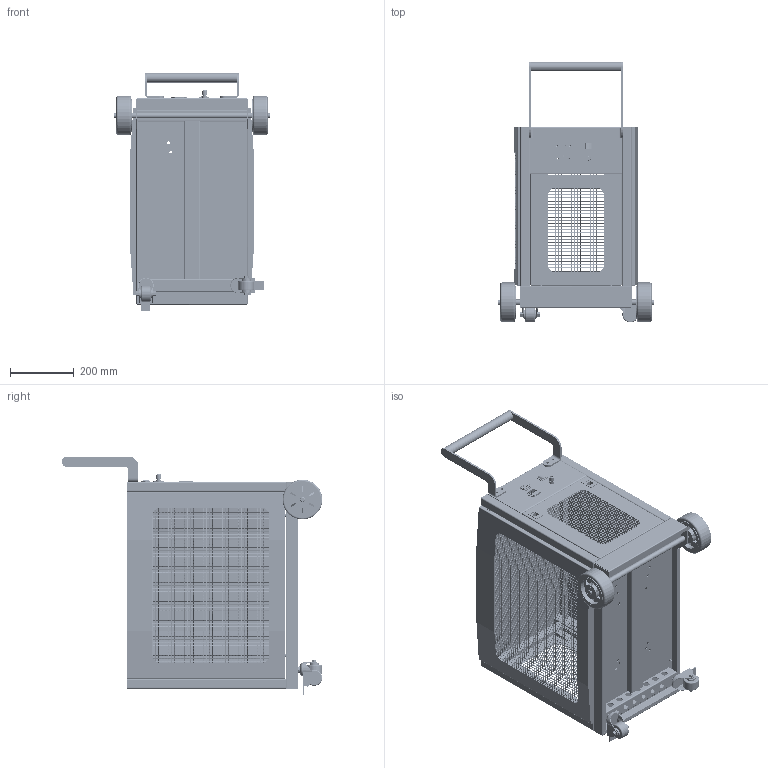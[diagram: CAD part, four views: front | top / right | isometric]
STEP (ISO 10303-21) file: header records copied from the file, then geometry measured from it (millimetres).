
FILE_DESCRIPTION (( 'STEP AP203' ), '1' );
FILE_NAME ('NY2102.03.00_苤芢陬耀倰俋夤.STEP', '2026-08-28T05:53:09', ( '' ), ( '' ), 'SwSTEP 2.0', 'SolidWorks 2024', '' );
FILE_SCHEMA (( 'CONFIG_CONTROL_DESIGN' ));
Products named in the file (1): NY2102.03.00_小推车模型外观
Bounding box: 490 x 820 x 751 mm (x, y, z)
Volume: 5071696.9 mm3; surface area: 4526214.3 mm2
Topology: 162 solids, 162 shells, 11689 faces, 28007 edges, 12900 vertices
Faces by surface type: cylinder 9447, plane 1953, bspline 173, cone 82, torus 34
Entity records: 330337 total; most frequent: CARTESIAN_POINT 98870, ORIENTED_EDGE 56014, DIRECTION 41109, EDGE_CURVE 28007, AXIS2_PLACEMENT_3D 13915, LINE 13279, VECTOR 13279, VERTEX_POINT 12900
